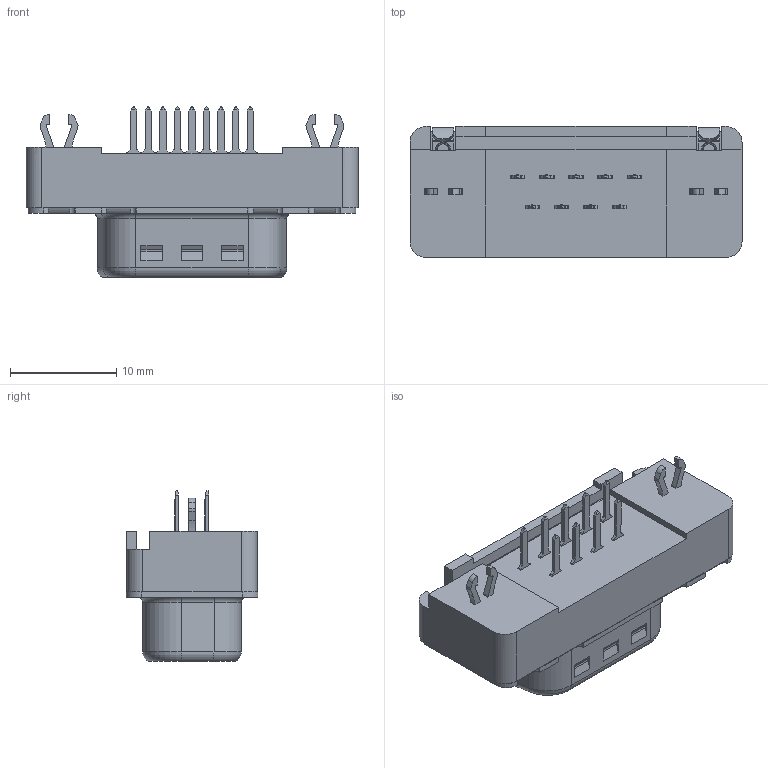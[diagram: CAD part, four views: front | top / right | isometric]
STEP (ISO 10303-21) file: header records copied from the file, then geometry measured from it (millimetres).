
FILE_DESCRIPTION(/* description */ (''),/* implementation_level */ '2;1');
FILE_NAME(/* name */ '100970684ugm000_a.stp',/* time_stamp */ '2021-08-12T05:45:43+02:00',/* author */ (''),/* organization */ (''),/* preprocessor_version */ 'ST-DEVELOPER v16.7',/* originating_system */ 'SIEMENS PLM Software NX 1911',/* authorisation */ '');
FILE_SCHEMA (('AUTOMOTIVE_DESIGN { 1 0 10303 214 3 1 1 1 }'));
Products named in the file (1): 100970684ugm000_a
Bounding box: 31.2 x 12.4 x 15.99 mm (x, y, z)
Volume: 2179.3 mm3; surface area: 2593.5 mm2
Topology: 1 solids, 12 shells, 1306 faces, 3388 edges, 2100 vertices
Faces by surface type: plane 567, bspline 306, cylinder 289, torus 70, sphere 50, cone 24
Full cylindrical faces by diameter (mm): 0.95 x9, 1.2 x4, 2.64 x2, 3.2 x2
Entity records: 58227 total; most frequent: CARTESIAN_POINT 20250, ORIENTED_EDGE 6468, DIRECTION 5144, EDGE_CURVE 3234, VERTEX_POINT 2046, AXIS2_PLACEMENT_3D 1889, EDGE_LOOP 1418, LINE 1366
